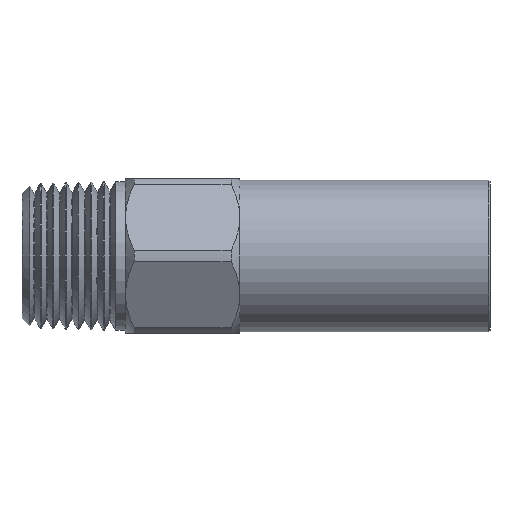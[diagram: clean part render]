
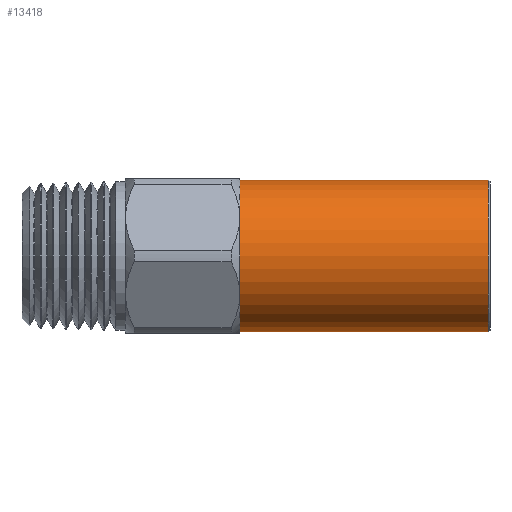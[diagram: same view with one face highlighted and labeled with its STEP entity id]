
A CAD part, front view. The second image highlights one B-rep face of the part: STEP entity #13418.
In plain terms, the highlighted cylindrical face has radius 10.922 mm (diameter 21.844 mm), a partial arc.
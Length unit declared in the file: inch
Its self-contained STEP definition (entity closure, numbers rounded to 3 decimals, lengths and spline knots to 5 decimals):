
#28 = CARTESIAN_POINT ( 'NONE',  ( 1.233, 0., 0. ) ) ;
#53 = VERTEX_POINT ( 'NONE', #8219 ) ;
#552 = ORIENTED_EDGE ( 'NONE', *, *, #14023, .T. ) ;
#816 = VERTEX_POINT ( 'NONE', #11688 ) ;
#2002 = DIRECTION ( 'NONE',  ( 0., 0., -1. ) ) ;
#2236 = FACE_OUTER_BOUND ( 'NONE', #5058, .T. ) ;
#2248 = VECTOR ( 'NONE', #5577, 39.37008 ) ;
#2286 = VERTEX_POINT ( 'NONE', #13946 ) ;
#2809 = DIRECTION ( 'NONE',  ( -1., 0., 0. ) ) ;
#3037 = CARTESIAN_POINT ( 'NONE',  ( 1.233, 0., 0.43 ) ) ;
#3106 = DIRECTION ( 'NONE',  ( 1., 0., 0. ) ) ;
#3473 = DIRECTION ( 'NONE',  ( 0., 0., -1. ) ) ;
#3498 = ORIENTED_EDGE ( 'NONE', *, *, #9571, .T. ) ;
#4296 = EDGE_CURVE ( 'NONE', #4415, #2286, #9844, .T. ) ;
#4334 = DIRECTION ( 'NONE',  ( 1., 0., 0. ) ) ;
#4415 = VERTEX_POINT ( 'NONE', #11665 ) ;
#4517 = AXIS2_PLACEMENT_3D ( 'NONE', #28, #5539, #3473 ) ;
#5058 = EDGE_LOOP ( 'NONE', ( #5852, #552, #14175, #3498 ) ) ;
#5539 = DIRECTION ( 'NONE',  ( 1., 0., 0. ) ) ;
#5577 = DIRECTION ( 'NONE',  ( 1., 0., 0. ) ) ;
#5852 = ORIENTED_EDGE ( 'NONE', *, *, #4296, .F. ) ;
#7068 = VECTOR ( 'NONE', #3106, 39.37008 ) ;
#7478 = CARTESIAN_POINT ( 'NONE',  ( 1.233, 0., -0.43 ) ) ;
#8219 = CARTESIAN_POINT ( 'NONE',  ( 1.233, 0., -0.43 ) ) ;
#8964 = AXIS2_PLACEMENT_3D ( 'NONE', #13307, #4334, #2002 ) ;
#9484 = CIRCLE ( 'NONE', #13200, 0.43 ) ;
#9571 = EDGE_CURVE ( 'NONE', #816, #2286, #9484, .T. ) ;
#9844 = LINE ( 'NONE', #3037, #7068 ) ;
#10141 = CYLINDRICAL_SURFACE ( 'NONE', #4517, 0.43 ) ;
#10473 = EDGE_CURVE ( 'NONE', #53, #816, #12148, .T. ) ;
#10715 = CARTESIAN_POINT ( 'NONE',  ( 2.638, 0., 0. ) ) ;
#11303 = CIRCLE ( 'NONE', #8964, 0.43 ) ;
#11665 = CARTESIAN_POINT ( 'NONE',  ( 1.233, 0., 0.43 ) ) ;
#11688 = CARTESIAN_POINT ( 'NONE',  ( 2.638, 0., -0.43 ) ) ;
#12148 = LINE ( 'NONE', #7478, #2248 ) ;
#13200 = AXIS2_PLACEMENT_3D ( 'NONE', #10715, #2809, #14141 ) ;
#13307 = CARTESIAN_POINT ( 'NONE',  ( 1.233, 0., 0. ) ) ;
#13418 = ADVANCED_FACE ( 'NONE', ( #2236 ), #10141, .T. ) ;
#13946 = CARTESIAN_POINT ( 'NONE',  ( 2.638, 0., 0.43 ) ) ;
#14023 = EDGE_CURVE ( 'NONE', #4415, #53, #11303, .T. ) ;
#14141 = DIRECTION ( 'NONE',  ( 0., 0., -1. ) ) ;
#14175 = ORIENTED_EDGE ( 'NONE', *, *, #10473, .T. ) ;
